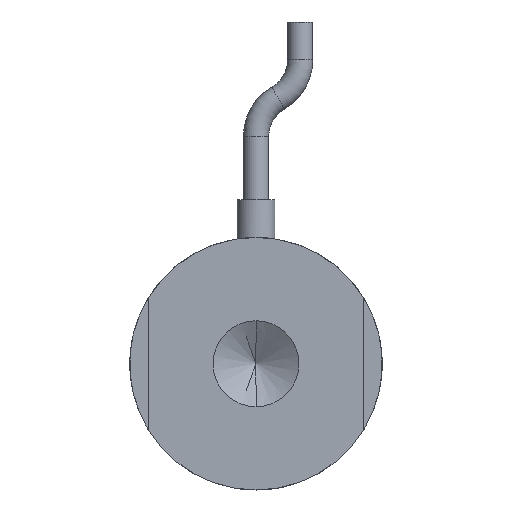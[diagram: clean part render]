
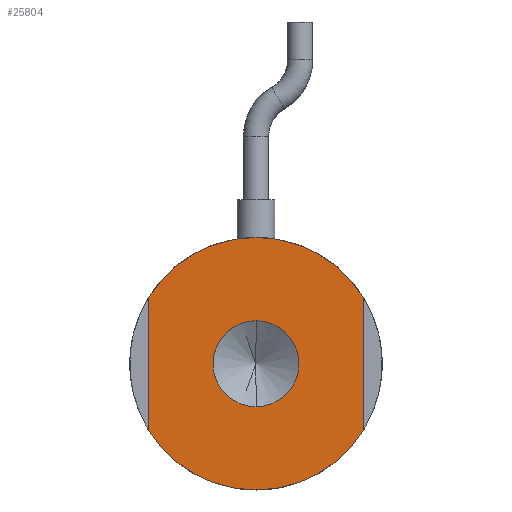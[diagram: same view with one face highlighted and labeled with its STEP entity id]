
A CAD part, front view. The second image highlights one B-rep face of the part: STEP entity #25804.
In plain terms, the highlighted planar face has unit normal (0, -1, 0).
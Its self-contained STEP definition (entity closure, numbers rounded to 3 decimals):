
#905 = ORIENTED_EDGE ( 'NONE', *, *, #9354, .F. ) ;
#1419 = CIRCLE ( 'NONE', #29418, 3.4 ) ;
#2495 = ORIENTED_EDGE ( 'NONE', *, *, #22477, .F. ) ;
#2894 = CARTESIAN_POINT ( 'NONE',  ( 0., 0., 0. ) ) ;
#2896 = CARTESIAN_POINT ( 'NONE',  ( 8.5, 0., 0. ) ) ;
#4311 = ORIENTED_EDGE ( 'NONE', *, *, #7707, .F. ) ;
#4670 = AXIS2_PLACEMENT_3D ( 'NONE', #6078, #30009, #9481 ) ;
#4677 = EDGE_CURVE ( 'NONE', #7597, #5954, #21834, .T. ) ;
#4728 = CARTESIAN_POINT ( 'NONE',  ( 0., 0., 0. ) ) ;
#4960 = DIRECTION ( 'NONE',  ( 0., 1., 0. ) ) ;
#5360 = LINE ( 'NONE', #2896, #22452 ) ;
#5954 = VERTEX_POINT ( 'NONE', #37852 ) ;
#6078 = CARTESIAN_POINT ( 'NONE',  ( 0., 0., 0. ) ) ;
#6343 = DIRECTION ( 'NONE',  ( 0., 0., -1. ) ) ;
#6345 = DIRECTION ( 'NONE',  ( 0., 0., -1. ) ) ;
#6483 = CARTESIAN_POINT ( 'NONE',  ( 0., 0., -3.4 ) ) ;
#6963 = CARTESIAN_POINT ( 'NONE',  ( -8.5, 0., 5.268 ) ) ;
#7545 = CARTESIAN_POINT ( 'NONE',  ( 0., 0., 0. ) ) ;
#7597 = VERTEX_POINT ( 'NONE', #21604 ) ;
#7707 = EDGE_CURVE ( 'NONE', #5954, #39731, #10039, .T. ) ;
#8157 = DIRECTION ( 'NONE',  ( 0., 0., 1. ) ) ;
#9354 = EDGE_CURVE ( 'NONE', #33265, #33915, #24981, .T. ) ;
#9481 = DIRECTION ( 'NONE',  ( 0., 0., 1. ) ) ;
#10039 = LINE ( 'NONE', #22188, #35237 ) ;
#10875 = EDGE_CURVE ( 'NONE', #15127, #38858, #41000, .T. ) ;
#10940 = DIRECTION ( 'NONE',  ( 0., 0., 1. ) ) ;
#15127 = VERTEX_POINT ( 'NONE', #16435 ) ;
#16435 = CARTESIAN_POINT ( 'NONE',  ( 0., 0., 3.4 ) ) ;
#16716 = ORIENTED_EDGE ( 'NONE', *, *, #10875, .F. ) ;
#17066 = DIRECTION ( 'NONE',  ( 0., -1., 0. ) ) ;
#18772 = CARTESIAN_POINT ( 'NONE',  ( 8.5, 0., -5.268 ) ) ;
#19315 = CARTESIAN_POINT ( 'NONE',  ( 0., 0., 0. ) ) ;
#20135 = ORIENTED_EDGE ( 'NONE', *, *, #4677, .F. ) ;
#20249 = ORIENTED_EDGE ( 'NONE', *, *, #42417, .F. ) ;
#21604 = CARTESIAN_POINT ( 'NONE',  ( 0., 0., -10. ) ) ;
#21750 = EDGE_LOOP ( 'NONE', ( #34406, #16716 ) ) ;
#21834 = CIRCLE ( 'NONE', #30724, 10. ) ;
#22188 = CARTESIAN_POINT ( 'NONE',  ( -8.5, 0., 0. ) ) ;
#22452 = VECTOR ( 'NONE', #6345, 1000. ) ;
#22477 = EDGE_CURVE ( 'NONE', #33915, #34263, #5360, .T. ) ;
#22525 = FACE_BOUND ( 'NONE', #21750, .T. ) ;
#22750 = DIRECTION ( 'NONE',  ( 0., 0., 1. ) ) ;
#23849 = CARTESIAN_POINT ( 'NONE',  ( 0., 0., 10. ) ) ;
#24981 = CIRCLE ( 'NONE', #4670, 10. ) ;
#25428 = CARTESIAN_POINT ( 'NONE',  ( 0., 0., 0. ) ) ;
#25625 = AXIS2_PLACEMENT_3D ( 'NONE', #19315, #43186, #22750 ) ;
#25804 = ADVANCED_FACE ( 'NONE', ( #22525, #38582 ), #33009, .F. ) ;
#26803 = DIRECTION ( 'NONE',  ( 0., -1., 0. ) ) ;
#28565 = CIRCLE ( 'NONE', #42083, 10. ) ;
#28646 = DIRECTION ( 'NONE',  ( 0., 1., 0. ) ) ;
#28874 = DIRECTION ( 'NONE',  ( 0., 0., 1. ) ) ;
#29418 = AXIS2_PLACEMENT_3D ( 'NONE', #37555, #17066, #40986 ) ;
#30009 = DIRECTION ( 'NONE',  ( 0., 1., 0. ) ) ;
#30724 = AXIS2_PLACEMENT_3D ( 'NONE', #4728, #28646, #8157 ) ;
#31505 = DIRECTION ( 'NONE',  ( 0., 1., 0. ) ) ;
#32609 = EDGE_CURVE ( 'NONE', #34263, #7597, #38462, .T. ) ;
#33009 = PLANE ( 'NONE',  #25625 ) ;
#33265 = VERTEX_POINT ( 'NONE', #23849 ) ;
#33915 = VERTEX_POINT ( 'NONE', #40646 ) ;
#34263 = VERTEX_POINT ( 'NONE', #18772 ) ;
#34406 = ORIENTED_EDGE ( 'NONE', *, *, #36688, .F. ) ;
#34654 = AXIS2_PLACEMENT_3D ( 'NONE', #25428, #4960, #28874 ) ;
#35115 = AXIS2_PLACEMENT_3D ( 'NONE', #2894, #26803, #6343 ) ;
#35237 = VECTOR ( 'NONE', #36588, 1000. ) ;
#36588 = DIRECTION ( 'NONE',  ( 0., 0., 1. ) ) ;
#36688 = EDGE_CURVE ( 'NONE', #38858, #15127, #1419, .T. ) ;
#37555 = CARTESIAN_POINT ( 'NONE',  ( 0., 0., 0. ) ) ;
#37852 = CARTESIAN_POINT ( 'NONE',  ( -8.5, 0., -5.268 ) ) ;
#38462 = CIRCLE ( 'NONE', #34654, 10. ) ;
#38582 = FACE_OUTER_BOUND ( 'NONE', #39547, .T. ) ;
#38858 = VERTEX_POINT ( 'NONE', #6483 ) ;
#39547 = EDGE_LOOP ( 'NONE', ( #4311, #20135, #39779, #2495, #905, #20249 ) ) ;
#39731 = VERTEX_POINT ( 'NONE', #6963 ) ;
#39779 = ORIENTED_EDGE ( 'NONE', *, *, #32609, .F. ) ;
#40646 = CARTESIAN_POINT ( 'NONE',  ( 8.5, 0., 5.268 ) ) ;
#40986 = DIRECTION ( 'NONE',  ( 0., 0., -1. ) ) ;
#41000 = CIRCLE ( 'NONE', #35115, 3.4 ) ;
#42083 = AXIS2_PLACEMENT_3D ( 'NONE', #7545, #31505, #10940 ) ;
#42417 = EDGE_CURVE ( 'NONE', #39731, #33265, #28565, .T. ) ;
#43186 = DIRECTION ( 'NONE',  ( 0., 1., 0. ) ) ;
